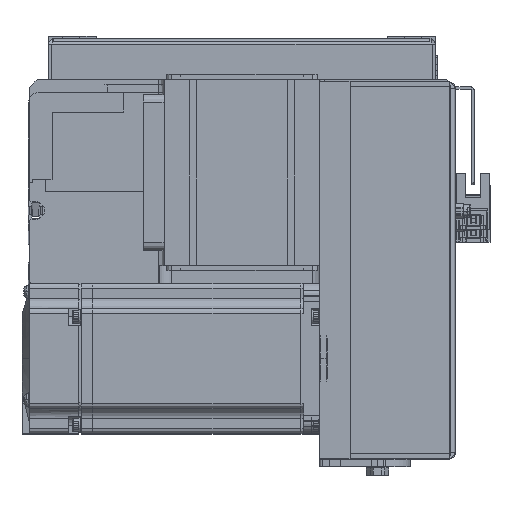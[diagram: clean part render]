
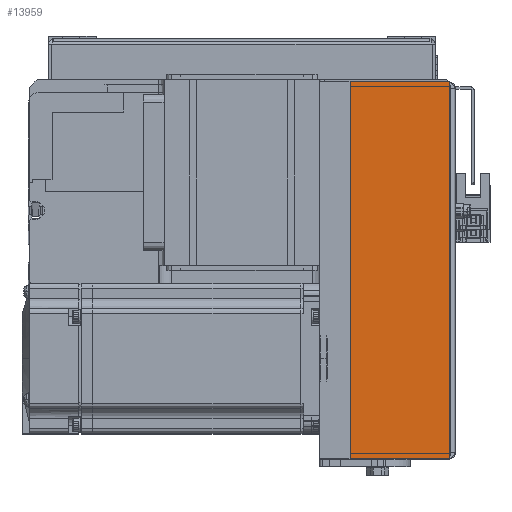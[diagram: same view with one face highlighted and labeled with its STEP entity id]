
A CAD part, top view. The second image highlights one B-rep face of the part: STEP entity #13959.
In plain terms, the highlighted planar face has unit normal (0, 0, 1) as drawn and (0, 1, 0) by its records, which use the part's own axes.
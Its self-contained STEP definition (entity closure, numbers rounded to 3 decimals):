
#4469 = ORIENTED_EDGE ( 'NONE', *, *, #22411, .T. ) ;
#5481 = VECTOR ( 'NONE', #21729, 1000. ) ;
#5932 = VERTEX_POINT ( 'NONE', #16765 ) ;
#6295 = VERTEX_POINT ( 'NONE', #30280 ) ;
#6320 = ORIENTED_EDGE ( 'NONE', *, *, #26831, .T. ) ;
#6385 = CARTESIAN_POINT ( 'NONE',  ( -75., 36., 51.5 ) ) ;
#7110 = DIRECTION ( 'NONE',  ( 0., -1., 0. ) ) ;
#8007 = CARTESIAN_POINT ( 'NONE',  ( -75., 36., 12. ) ) ;
#8641 = ORIENTED_EDGE ( 'NONE', *, *, #41772, .F. ) ;
#8829 = CARTESIAN_POINT ( 'NONE',  ( 0., 36., 52. ) ) ;
#9069 = AXIS2_PLACEMENT_3D ( 'NONE', #8829, #7110, #40486 ) ;
#11412 = VECTOR ( 'NONE', #25856, 1000. ) ;
#13251 = VERTEX_POINT ( 'NONE', #37355 ) ;
#13959 = ADVANCED_FACE ( 'NONE', ( #39196 ), #25305, .F. ) ;
#14836 = ORIENTED_EDGE ( 'NONE', *, *, #40436, .F. ) ;
#16323 = LINE ( 'NONE', #29931, #23111 ) ;
#16765 = CARTESIAN_POINT ( 'NONE',  ( 75., 36., 51.5 ) ) ;
#18989 = VERTEX_POINT ( 'NONE', #8007 ) ;
#21729 = DIRECTION ( 'NONE',  ( 0., 0., -1. ) ) ;
#22411 = EDGE_CURVE ( 'NONE', #5932, #6295, #37408, .T. ) ;
#23111 = VECTOR ( 'NONE', #23451, 1000. ) ;
#23451 = DIRECTION ( 'NONE',  ( 0., 0., -1. ) ) ;
#25123 = VECTOR ( 'NONE', #42069, 1000. ) ;
#25305 = PLANE ( 'NONE',  #9069 ) ;
#25856 = DIRECTION ( 'NONE',  ( -1., 0., 0. ) ) ;
#26831 = EDGE_CURVE ( 'NONE', #6295, #18989, #42284, .T. ) ;
#29931 = CARTESIAN_POINT ( 'NONE',  ( -75., 36., 51.5 ) ) ;
#30280 = CARTESIAN_POINT ( 'NONE',  ( 75., 36., 12. ) ) ;
#34344 = CARTESIAN_POINT ( 'NONE',  ( 75., 36., 51.5 ) ) ;
#35476 = EDGE_LOOP ( 'NONE', ( #8641, #4469, #6320, #14836 ) ) ;
#36077 = LINE ( 'NONE', #6385, #11412 ) ;
#37355 = CARTESIAN_POINT ( 'NONE',  ( -75., 36., 51.5 ) ) ;
#37408 = LINE ( 'NONE', #34344, #5481 ) ;
#39025 = CARTESIAN_POINT ( 'NONE',  ( 0., 36., 12. ) ) ;
#39196 = FACE_OUTER_BOUND ( 'NONE', #35476, .T. ) ;
#40436 = EDGE_CURVE ( 'NONE', #13251, #18989, #16323, .T. ) ;
#40486 = DIRECTION ( 'NONE',  ( 0., 0., 1. ) ) ;
#41772 = EDGE_CURVE ( 'NONE', #5932, #13251, #36077, .T. ) ;
#42069 = DIRECTION ( 'NONE',  ( -1., 0., 0. ) ) ;
#42284 = LINE ( 'NONE', #39025, #25123 ) ;
